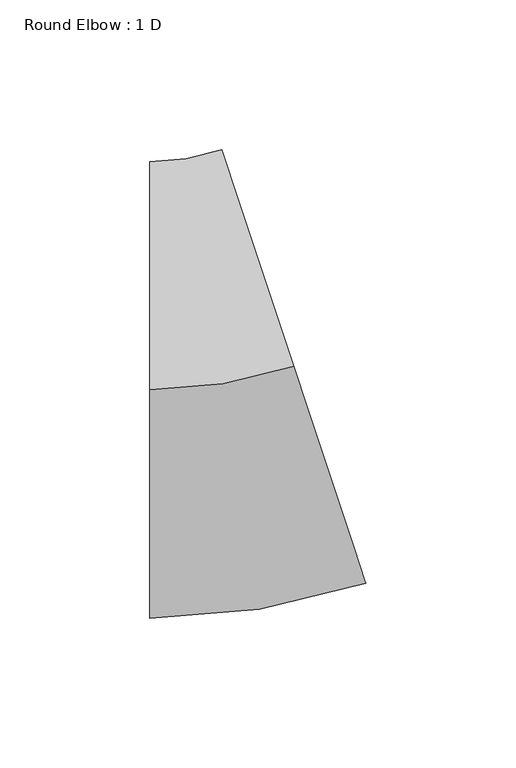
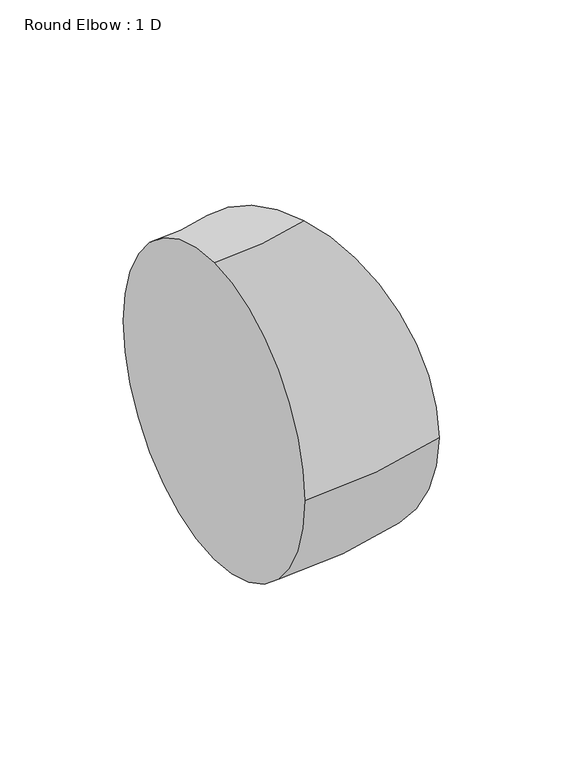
"""IFC4 building model written with IfcOpenShell, lengths in millimetres: duct fitting geometry, Round Elbow : 1 D."""

from ifc_helpers import new_model, si_unit, point, frame, origin, place, context, project, spatial, circle_curve, ellipse_curve, trimmed, source, transform, mapped, element, save
from ifc_brep_helpers import plane_surface, revolved_surface, advanced_brep


def round_elbow_1_d_f0624a5f(model_context):
    return source(origin(), model_context, "Body", "AdvancedBrep", [
        advanced_brep(
        [(-24.6520901, 0.0, 76.2), (-24.6520901, 76.2, 0.0), (-24.6520901, 0.0, -76.2), (-24.6520901, -76.2, 0.0), (23.3948921, 7.7720376, 76.2), (47.4183832, -64.5419435, 0.0), (23.3948921, 7.7720376, -76.2), (-0.628599, 80.0860188, 0.0)],
        [
            (0, 1, circle_curve(frame((-24.6520901, 0.0, 0.0), z_axis=(-1.0, 0.0, 0.0), x_axis=(0.0, 1.0, 0.0)), 76.2)),
            (1, 2, circle_curve(frame((-24.6520901, 0.0, 0.0), z_axis=(-1.0, 0.0, 0.0), x_axis=(0.0, 1.0, 0.0)), 76.2)),
            (2, 3, circle_curve(frame((-24.6520901, 0.0, 0.0), z_axis=(-1.0, 0.0, 0.0), x_axis=(0.0, 1.0, 0.0)), 76.2)),
            (3, 0, circle_curve(frame((-24.6520901, 0.0, 0.0), z_axis=(-1.0, 0.0, 0.0), x_axis=(0.0, 1.0, 0.0)), 76.2)),
            (4, 5, circle_curve(frame((23.3948921, 7.7720376, 0.0), z_axis=(0.9490023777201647, 0.3152689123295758, 0.0), x_axis=(-0.3152689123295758, 0.9490023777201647, 0.0)), 76.2)),
            (5, 6, circle_curve(frame((23.3948921, 7.7720376, 0.0), z_axis=(0.9490023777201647, 0.3152689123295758, 0.0), x_axis=(-0.3152689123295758, 0.9490023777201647, 0.0)), 76.2)),
            (6, 7, circle_curve(frame((23.3948921, 7.7720376, 0.0), z_axis=(0.9490023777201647, 0.3152689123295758, 0.0), x_axis=(-0.3152689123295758, 0.9490023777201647, 0.0)), 76.2)),
            (7, 4, circle_curve(frame((23.3948921, 7.7720376, 0.0), z_axis=(0.9490023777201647, 0.3152689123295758, 0.0), x_axis=(-0.3152689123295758, 0.9490023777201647, 0.0)), 76.2)),
            (7, 1, circle_curve(frame((-24.6520901, 152.4, 0.0), z_axis=(0.0, 0.0, -1.0), x_axis=(0.0, -1.0, 0.0)), 76.2)),
            (0, 4, circle_curve(frame((-24.6520901, 152.4, 76.2), z_axis=(0.0, 0.0, 1.0), x_axis=(0.0, -1.0, 0.0)), 152.4)),
            (6, 2, circle_curve(frame((-24.6520901, 152.4, -76.2), z_axis=(0.0, 0.0, -1.0), x_axis=(0.0, -1.0, 0.0)), 152.4)),
            (5, 3, circle_curve(frame((-24.6520901, 152.4, 0.0), z_axis=(0.0, 0.0, -1.0), x_axis=(0.0, -1.0, 0.0)), 228.6)),
        ],
        [
            plane_surface(frame((-24.6520901, 0.0, 0.0), z_axis=(-1.0, 0.0, 0.0), x_axis=(0.0, 0.0, 1.0))),
            plane_surface(frame((23.3948921, 7.7720376, 0.0), z_axis=(0.9490023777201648, 0.3152689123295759, 0.0), x_axis=(0.0, 0.0, 1.0))),
            revolved_surface(trimmed(ellipse_curve(frame((-24.6520901, 0.0, 0.0), z_axis=(-1.0, 0.0, 0.0), x_axis=(0.0, 1.0, 0.0)), 76.2, 76.2), [point((-24.6520901, 0.0, 76.2))], [point((-24.6520901, 76.2, 0.0))], True, "CARTESIAN"), (-24.6520901, 152.4, 0.0), (0.0, 0.0, 1.0)),
            revolved_surface(trimmed(ellipse_curve(frame((-24.6520901, 0.0, 0.0), z_axis=(-1.0, 0.0, 0.0), x_axis=(0.0, 1.0, 0.0)), 76.2, 76.2), [point((-24.6520901, 76.2, 0.0))], [point((-24.6520901, 0.0, -76.2))], True, "CARTESIAN"), (-24.6520901, 152.4, 0.0), (0.0, 0.0, 1.0)),
            revolved_surface(trimmed(ellipse_curve(frame((-24.6520901, 0.0, 0.0), z_axis=(-1.0, 0.0, 0.0), x_axis=(0.0, 1.0, 0.0)), 76.2, 76.2), [point((-24.6520901, 0.0, -76.2))], [point((-24.6520901, -76.2, 0.0))], True, "CARTESIAN"), (-24.6520901, 152.4, 0.0), (0.0, 0.0, 1.0)),
            revolved_surface(trimmed(ellipse_curve(frame((-24.6520901, 0.0, 0.0), z_axis=(-1.0, 0.0, 0.0), x_axis=(0.0, 1.0, 0.0)), 76.2, 76.2), [point((-24.6520901, -76.2, 0.0))], [point((-24.6520901, 0.0, 76.2))], True, "CARTESIAN"), (-24.6520901, 152.4, 0.0), (0.0, 0.0, 1.0)),
        ],
        [
            (0, [[1, 2, 3, 4]]),
            (1, [[5, 6, 7, 8]]),
            (2, [[9, -1, 10, -8]]),
            (3, [[11, -2, -9, -7]]),
            (4, [[12, -3, -11, -6]]),
            (5, [[-10, -4, -12, -5]]),
        ],
    ),
    ])


if __name__ == "__main__":
    model = new_model("IFC4")
    model_context = context("Model", 3, world=origin())
    ifc_project = project(units=[si_unit("LENGTHUNIT", "METRE", prefix="MILLI")], contexts=[model_context])
    site = spatial("IfcSite", under=ifc_project)
    building = spatial("IfcBuilding", under=site)
    placement = place(None, origin())
    round_elbow_1_d_shape = round_elbow_1_d_f0624a5f(model_context)
    element("IfcDuctFitting", 1, ObjectType="Round Elbow : 1 D", at=placement, inside=building, context=model_context, shape_type="MappedRepresentation", body=[
        mapped(round_elbow_1_d_shape, transform((0.0, 0.0, 0.0), x_axis=(1.0, 0.0, 0.0), y_axis=(0.0, 1.0, 0.0), z_axis=(0.0, 0.0, 1.0))),
    ])
    save(model, "model.ifc")
